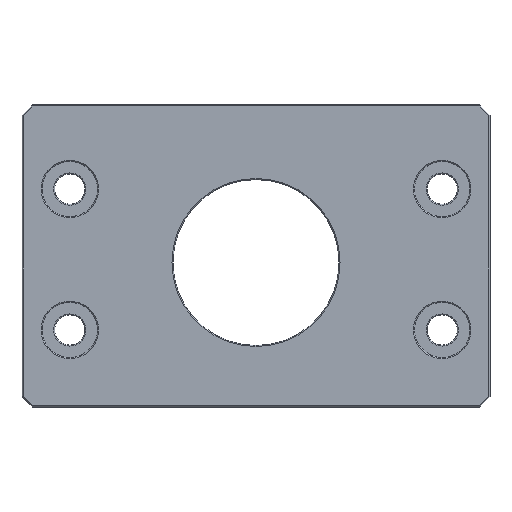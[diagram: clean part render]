
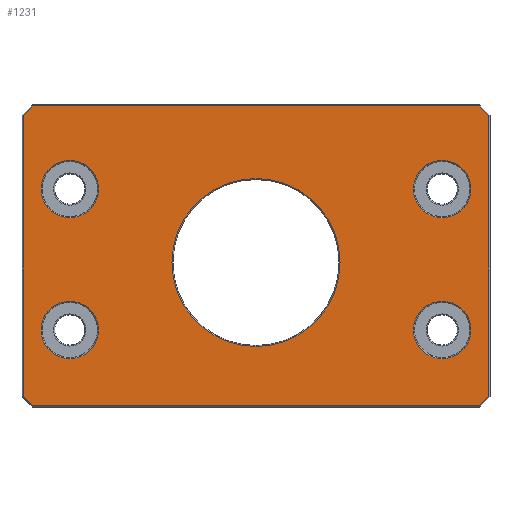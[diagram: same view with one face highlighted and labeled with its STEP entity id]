
A CAD part, top view. The second image highlights one B-rep face of the part: STEP entity #1231.
In plain terms, the highlighted planar face has unit normal (0, 0, 1).
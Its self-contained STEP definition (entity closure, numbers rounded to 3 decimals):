
#156=DIRECTION('',(0.,-1.,0.));
#157=VECTOR('',#156,55.834);
#158=CARTESIAN_POINT('',(-46.3,29.217,10.));
#159=LINE('',#158,#157);
#160=DIRECTION('',(-0.707,-0.707,0.));
#161=VECTOR('',#160,2.663);
#162=CARTESIAN_POINT('',(-44.417,31.1,10.));
#163=LINE('',#162,#161);
#164=DIRECTION('',(-1.,0.,0.));
#165=VECTOR('',#164,88.834);
#166=CARTESIAN_POINT('',(44.417,31.1,10.));
#167=LINE('',#166,#165);
#168=DIRECTION('',(-0.707,0.707,0.));
#169=VECTOR('',#168,2.663);
#170=CARTESIAN_POINT('',(46.3,29.217,10.));
#171=LINE('',#170,#169);
#172=DIRECTION('',(0.,1.,0.));
#173=VECTOR('',#172,55.834);
#174=CARTESIAN_POINT('',(46.3,-26.617,10.));
#175=LINE('',#174,#173);
#176=DIRECTION('',(0.707,0.707,0.));
#177=VECTOR('',#176,2.663);
#178=CARTESIAN_POINT('',(44.417,-28.5,10.));
#179=LINE('',#178,#177);
#180=DIRECTION('',(1.,0.,0.));
#181=VECTOR('',#180,88.834);
#182=CARTESIAN_POINT('',(-44.417,-28.5,10.));
#183=LINE('',#182,#181);
#184=DIRECTION('',(0.707,-0.707,0.));
#185=VECTOR('',#184,2.663);
#186=CARTESIAN_POINT('',(-46.3,-26.617,10.));
#187=LINE('',#186,#185);
#188=CARTESIAN_POINT('',(37.,-13.4,10.));
#189=DIRECTION('',(0.,0.,-1.));
#190=DIRECTION('',(1.,0.,0.));
#191=AXIS2_PLACEMENT_3D('',#188,#189,#190);
#193=CARTESIAN_POINT('',(37.,-13.4,10.));
#194=DIRECTION('',(0.,0.,-1.));
#195=DIRECTION('',(-1.,0.,0.));
#196=AXIS2_PLACEMENT_3D('',#193,#194,#195);
#198=CARTESIAN_POINT('',(37.,14.6,10.));
#199=DIRECTION('',(0.,0.,-1.));
#200=DIRECTION('',(1.,0.,0.));
#201=AXIS2_PLACEMENT_3D('',#198,#199,#200);
#203=CARTESIAN_POINT('',(37.,14.6,10.));
#204=DIRECTION('',(0.,0.,-1.));
#205=DIRECTION('',(-1.,0.,0.));
#206=AXIS2_PLACEMENT_3D('',#203,#204,#205);
#208=CARTESIAN_POINT('',(-37.,-13.4,10.));
#209=DIRECTION('',(0.,0.,-1.));
#210=DIRECTION('',(1.,0.,0.));
#211=AXIS2_PLACEMENT_3D('',#208,#209,#210);
#213=CARTESIAN_POINT('',(-37.,-13.4,10.));
#214=DIRECTION('',(0.,0.,-1.));
#215=DIRECTION('',(-1.,0.,0.));
#216=AXIS2_PLACEMENT_3D('',#213,#214,#215);
#218=CARTESIAN_POINT('',(-37.,14.6,10.));
#219=DIRECTION('',(0.,0.,-1.));
#220=DIRECTION('',(1.,0.,0.));
#221=AXIS2_PLACEMENT_3D('',#218,#219,#220);
#223=CARTESIAN_POINT('',(-37.,14.6,10.));
#224=DIRECTION('',(0.,0.,-1.));
#225=DIRECTION('',(-1.,0.,0.));
#226=AXIS2_PLACEMENT_3D('',#223,#224,#225);
#228=CARTESIAN_POINT('',(0.,0.,10.));
#229=DIRECTION('',(0.,0.,-1.));
#230=DIRECTION('',(0.,1.,0.));
#231=AXIS2_PLACEMENT_3D('',#228,#229,#230);
#233=CARTESIAN_POINT('',(0.,0.,10.));
#234=DIRECTION('',(0.,0.,-1.));
#235=DIRECTION('',(0.,-1.,0.));
#236=AXIS2_PLACEMENT_3D('',#233,#234,#235);
#819=CARTESIAN_POINT('',(-46.3,29.217,10.));
#820=CARTESIAN_POINT('',(-46.3,-26.617,10.));
#821=VERTEX_POINT('',#819);
#822=VERTEX_POINT('',#820);
#823=CARTESIAN_POINT('',(-44.417,31.1,10.));
#824=VERTEX_POINT('',#823);
#829=CARTESIAN_POINT('',(44.417,31.1,10.));
#830=VERTEX_POINT('',#829);
#833=CARTESIAN_POINT('',(46.3,29.217,10.));
#834=VERTEX_POINT('',#833);
#837=CARTESIAN_POINT('',(46.3,-26.617,10.));
#838=VERTEX_POINT('',#837);
#841=CARTESIAN_POINT('',(44.417,-28.5,10.));
#842=VERTEX_POINT('',#841);
#845=CARTESIAN_POINT('',(-44.417,-28.5,10.));
#846=VERTEX_POINT('',#845);
#939=CARTESIAN_POINT('',(42.7,-13.4,10.));
#940=CARTESIAN_POINT('',(31.3,-13.4,10.));
#941=VERTEX_POINT('',#939);
#942=VERTEX_POINT('',#940);
#947=CARTESIAN_POINT('',(42.7,14.6,10.));
#948=CARTESIAN_POINT('',(31.3,14.6,10.));
#949=VERTEX_POINT('',#947);
#950=VERTEX_POINT('',#948);
#971=CARTESIAN_POINT('',(-31.3,-13.4,10.));
#972=CARTESIAN_POINT('',(-42.7,-13.4,10.));
#973=VERTEX_POINT('',#971);
#974=VERTEX_POINT('',#972);
#987=CARTESIAN_POINT('',(-31.3,14.6,10.));
#988=CARTESIAN_POINT('',(-42.7,14.6,10.));
#989=VERTEX_POINT('',#987);
#990=VERTEX_POINT('',#988);
#995=CARTESIAN_POINT('',(0.,16.7,10.));
#996=CARTESIAN_POINT('',(0.,-16.7,10.));
#997=VERTEX_POINT('',#995);
#998=VERTEX_POINT('',#996);
#1179=CARTESIAN_POINT('',(0.,0.,10.));
#1180=DIRECTION('',(0.,0.,1.));
#1181=DIRECTION('',(1.,0.,0.));
#1182=AXIS2_PLACEMENT_3D('',#1179,#1180,#1181);
#1183=PLANE('',#1182);
#1185=ORIENTED_EDGE('',*,*,#1184,.F.);
#1187=ORIENTED_EDGE('',*,*,#1186,.F.);
#1189=ORIENTED_EDGE('',*,*,#1188,.F.);
#1191=ORIENTED_EDGE('',*,*,#1190,.F.);
#1193=ORIENTED_EDGE('',*,*,#1192,.F.);
#1195=ORIENTED_EDGE('',*,*,#1194,.F.);
#1197=ORIENTED_EDGE('',*,*,#1196,.F.);
#1199=ORIENTED_EDGE('',*,*,#1198,.F.);
#1200=EDGE_LOOP('',(#1185,#1187,#1189,#1191,#1193,#1195,#1197,#1199));
#1201=FACE_OUTER_BOUND('',#1200,.F.);
#1203=ORIENTED_EDGE('',*,*,#1202,.F.);
#1205=ORIENTED_EDGE('',*,*,#1204,.F.);
#1206=EDGE_LOOP('',(#1203,#1205));
#1207=FACE_BOUND('',#1206,.F.);
#1209=ORIENTED_EDGE('',*,*,#1208,.F.);
#1211=ORIENTED_EDGE('',*,*,#1210,.F.);
#1212=EDGE_LOOP('',(#1209,#1211));
#1213=FACE_BOUND('',#1212,.F.);
#1215=ORIENTED_EDGE('',*,*,#1214,.F.);
#1217=ORIENTED_EDGE('',*,*,#1216,.F.);
#1218=EDGE_LOOP('',(#1215,#1217));
#1219=FACE_BOUND('',#1218,.F.);
#1221=ORIENTED_EDGE('',*,*,#1220,.F.);
#1223=ORIENTED_EDGE('',*,*,#1222,.F.);
#1224=EDGE_LOOP('',(#1221,#1223));
#1225=FACE_BOUND('',#1224,.F.);
#1226=ORIENTED_EDGE('',*,*,#1169,.F.);
#1228=ORIENTED_EDGE('',*,*,#1227,.F.);
#1229=EDGE_LOOP('',(#1226,#1228));
#1230=FACE_BOUND('',#1229,.F.);
#192=CIRCLE('',#191,5.7);
#197=CIRCLE('',#196,5.7);
#202=CIRCLE('',#201,5.7);
#207=CIRCLE('',#206,5.7);
#212=CIRCLE('',#211,5.7);
#217=CIRCLE('',#216,5.7);
#222=CIRCLE('',#221,5.7);
#227=CIRCLE('',#226,5.7);
#232=CIRCLE('',#231,16.7);
#237=CIRCLE('',#236,16.7);
#1169=EDGE_CURVE('',#997,#998,#232,.T.);
#1184=EDGE_CURVE('',#821,#822,#159,.T.);
#1186=EDGE_CURVE('',#824,#821,#163,.T.);
#1188=EDGE_CURVE('',#830,#824,#167,.T.);
#1190=EDGE_CURVE('',#834,#830,#171,.T.);
#1192=EDGE_CURVE('',#838,#834,#175,.T.);
#1194=EDGE_CURVE('',#842,#838,#179,.T.);
#1196=EDGE_CURVE('',#846,#842,#183,.T.);
#1198=EDGE_CURVE('',#822,#846,#187,.T.);
#1202=EDGE_CURVE('',#941,#942,#192,.T.);
#1204=EDGE_CURVE('',#942,#941,#197,.T.);
#1208=EDGE_CURVE('',#949,#950,#202,.T.);
#1210=EDGE_CURVE('',#950,#949,#207,.T.);
#1214=EDGE_CURVE('',#973,#974,#212,.T.);
#1216=EDGE_CURVE('',#974,#973,#217,.T.);
#1220=EDGE_CURVE('',#989,#990,#222,.T.);
#1222=EDGE_CURVE('',#990,#989,#227,.T.);
#1227=EDGE_CURVE('',#998,#997,#237,.T.);
#1231=ADVANCED_FACE('',(#1201,#1207,#1213,#1219,#1225,#1230),#1183,.T.);
